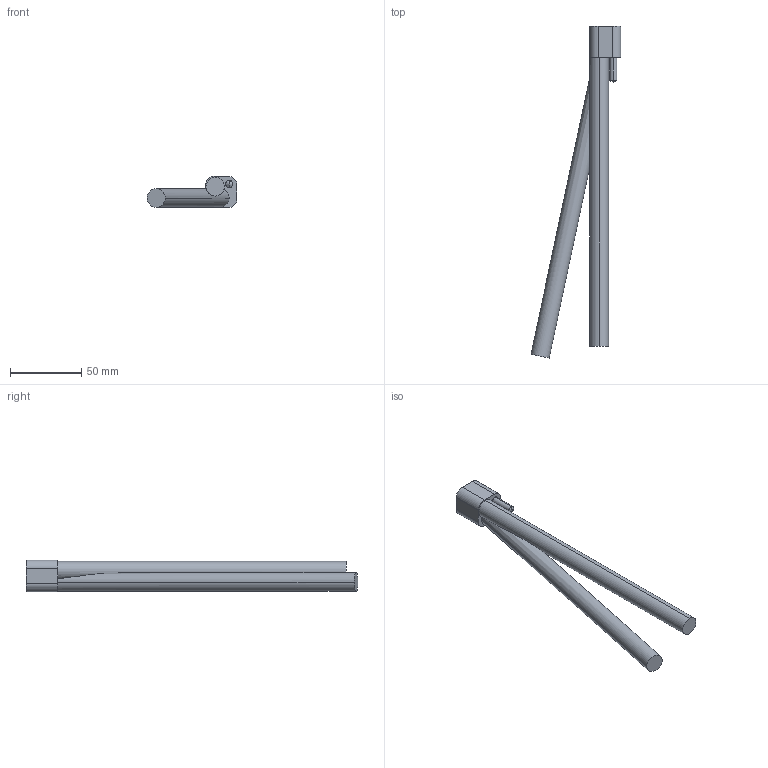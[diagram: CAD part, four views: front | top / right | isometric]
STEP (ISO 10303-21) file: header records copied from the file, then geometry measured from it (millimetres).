
FILE_DESCRIPTION (( 'STEP AP203' ), '1' );
FILE_NAME ('DR22125L-12.STEP', '2016-11-08T07:26:14', ( '' ), ( '' ), 'SwSTEP 2.0', 'SolidWorks 2015', '' );
FILE_SCHEMA (( 'CONFIG_CONTROL_DESIGN' ));
Length unit declared in the file: millimetre
Products named in the file (1): DR22125L-12
Bounding box: 62.94 x 232.19 x 22.02 mm (x, y, z)
Volume: 63955.4 mm3; surface area: 18645.5 mm2
Topology: 1 solids, 1 shells, 20 faces, 49 edges, 31 vertices
Faces by surface type: cylinder 10, plane 8, cone 2
Entity records: 718 total; most frequent: CARTESIAN_POINT 172, DIRECTION 102, ORIENTED_EDGE 94, EDGE_CURVE 47, AXIS2_PLACEMENT_3D 39, VERTEX_POINT 31, LINE 24, VECTOR 24
